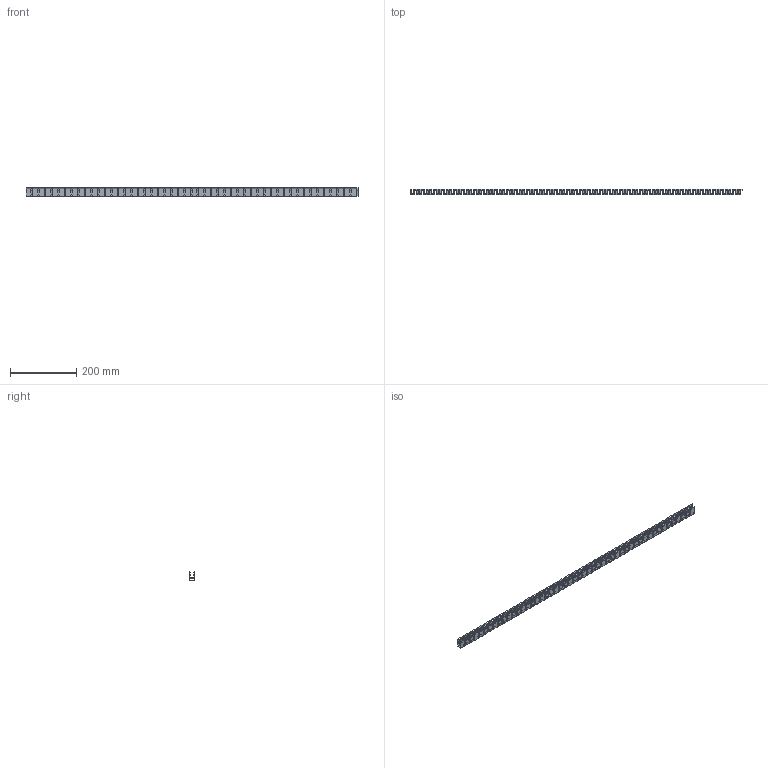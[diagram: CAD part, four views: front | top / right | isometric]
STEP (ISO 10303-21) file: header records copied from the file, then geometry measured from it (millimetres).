
FILE_DESCRIPTION(/* description */ (''),/* implementation_level */ '2;1');
FILE_NAME(/* name */ 'NF_1121+1128_FLEX_DUAL_BEND_L1000_R02.step',/* time_stamp */ '2026-08-02T19:38:04+02:00',/* author */ (''),/* organization */ (''),/* preprocessor_version */ 'ST-DEVELOPER v20.1',/* originating_system */ 'Autodesk Translation Framework v15.8.0.0',/* authorisation */ '');
FILE_SCHEMA (('AUTOMOTIVE_DESIGN { 1 0 10303 214 3 1 1 }'));
Products named in the file (1): 2026-07-27-13-53-08-939
Bounding box: 1000 x 15.74 x 26 mm (x, y, z)
Volume: 43543.3 mm3; surface area: 113345.2 mm2
Topology: 1 solids, 1 shells, 2115 faces, 6339 edges, 4226 vertices
Faces by surface type: plane 1812, cylinder 303
Entity records: 70392 total; most frequent: CARTESIAN_POINT 12681, ORIENTED_EDGE 12678, DIRECTION 11177, EDGE_CURVE 6339, LINE 5733, VECTOR 5733, VERTEX_POINT 4226, AXIS2_PLACEMENT_3D 2722
